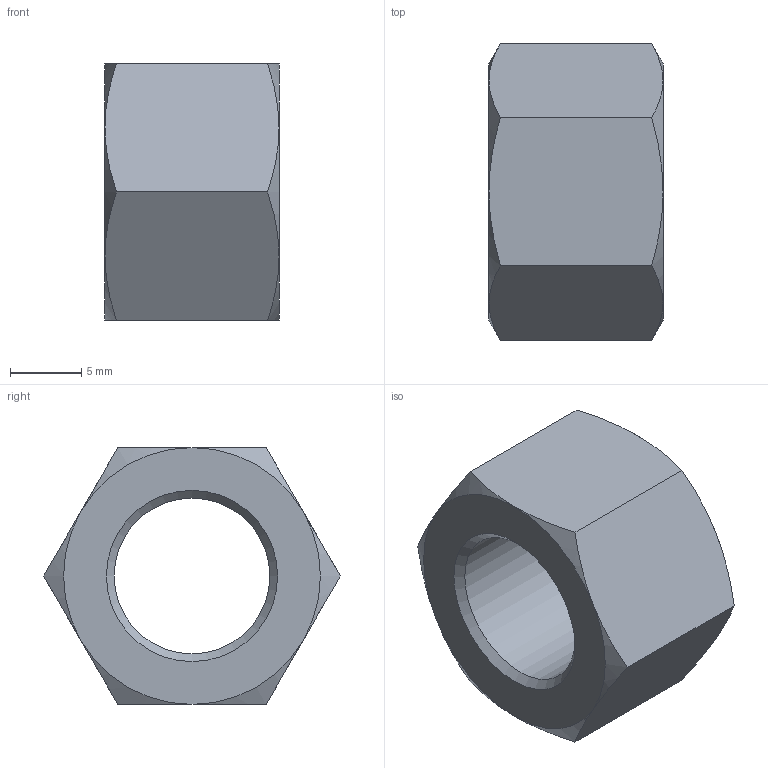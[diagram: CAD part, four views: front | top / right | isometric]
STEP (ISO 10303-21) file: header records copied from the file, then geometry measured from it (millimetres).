
FILE_DESCRIPTION(/* description */ ('6각 너트 및 6각 가는 너트'),/* implementation_level */ '2;1');
FILE_NAME(/* name */ '',/* time_stamp */ '2026-06-02T17:09:27+09:00',/* author */ ('jhkim'),/* organization */ (''),/* preprocessor_version */ 'ST-DEVELOPER v20.1',/* originating_system */ 'Autodesk Inventor 2027',/* authorisation */ '');
FILE_SCHEMA (('AUTOMOTIVE_DESIGN { 1 0 10303 214 3 1 1 }'));
Length unit declared in the file: millimetre
Products named in the file (1): 6각 너트 M12x1
Bounding box: 12.2 x 20.78 x 18 mm (x, y, z)
Volume: 2258.2 mm3; surface area: 1505.8 mm2
Topology: 1 solids, 1 shells, 23 faces, 50 edges, 29 vertices
Faces by surface type: cone 14, plane 8, cylinder 1
Full cylindrical faces by diameter (mm): 10.917 x1
Entity records: 640 total; most frequent: CARTESIAN_POINT 151, ORIENTED_EDGE 100, DIRECTION 91, EDGE_CURVE 50, AXIS2_PLACEMENT_3D 41, VERTEX_POINT 29, EDGE_LOOP 25, FACE_OUTER_BOUND 23
